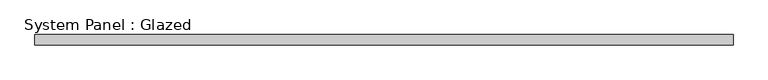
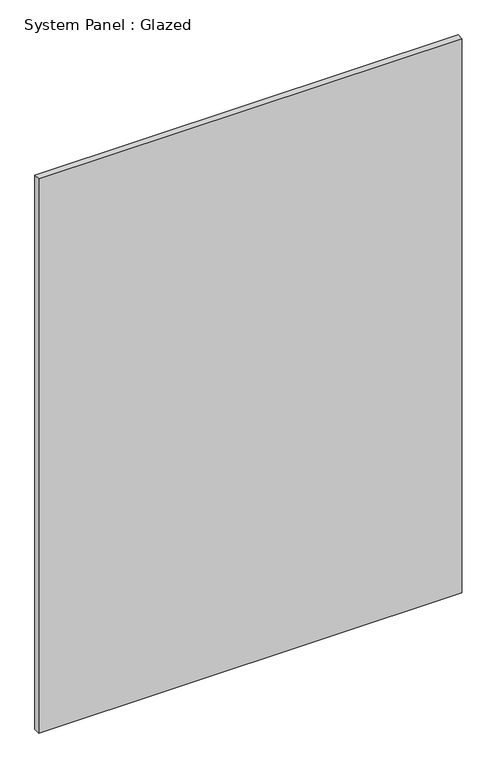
"""IFC4 building model written with IfcOpenShell, lengths in millimetres: plate geometry, System Panel : Glazed."""

from ifc_helpers import new_model, si_unit, origin, origin_with_axes, place, context, project, spatial, polyline, outline, extrude, source, transform, mapped, element, save


def system_panel_glazed_3cc53457(model_context):
    return source(origin(), model_context, "Body", "SweptSolid", [
        extrude(outline(polyline([(857.1642504, 19.05), (-857.1642504, 19.05), (-857.1642504, 44.45), (857.1642504, 44.45), (857.1642504, 19.05)])), origin_with_axes(), (0.0, 0.0, 1.0), 2374.7638735),
    ])


if __name__ == "__main__":
    model = new_model("IFC4")
    model_context = context("Model", 3, world=origin())
    ifc_project = project(units=[si_unit("LENGTHUNIT", "METRE", prefix="MILLI")], contexts=[model_context])
    site = spatial("IfcSite", under=ifc_project)
    building = spatial("IfcBuilding", under=site)
    placement = place(None, origin())
    system_panel_glazed_shape = system_panel_glazed_3cc53457(model_context)
    element("IfcPlate", 1, ObjectType="System Panel : Glazed", at=placement, inside=building, context=model_context, shape_type="MappedRepresentation", body=[
        mapped(system_panel_glazed_shape, transform((0.0, 0.0, 0.0), x_axis=(1.0, 0.0, 0.0), y_axis=(0.0, 1.0, 0.0), z_axis=(0.0, 0.0, 1.0))),
    ])
    save(model, "model.ifc")
